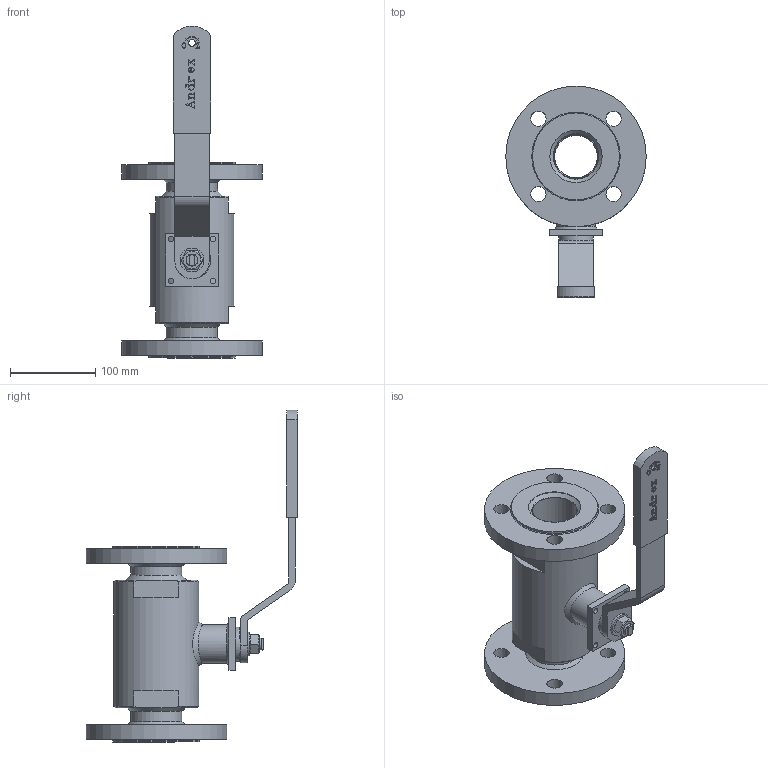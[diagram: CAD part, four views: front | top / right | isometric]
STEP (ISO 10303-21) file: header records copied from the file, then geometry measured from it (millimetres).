
FILE_DESCRIPTION(/* description */ (''),/* implementation_level */ '2;1');
FILE_NAME(/* name */ 'R:\Dokumenty_konstrukcyjne_INVENTOR\000_Zlozenie\50.41k.000.B1-10-40.00.stp',/* time_stamp */ '2022-09-19T11:25:08+02:00',/* author */ ('maat'),/* organization */ (''),/* preprocessor_version */ 'ST-DEVELOPER v15.6',/* originating_system */ 'Autodesk Inventor 2015',/* authorisation */ '');
FILE_SCHEMA (('AUTOMOTIVE_DESIGN { 1 0 10303 214 3 1 1 }'));
Length unit declared in the file: centimetre
Products named in the file (1): 50.41k.000.B1-10-40.00
Bounding box: 165 x 248.7 x 389.9 mm (x, y, z)
Volume: 1694615.4 mm3; surface area: 306236 mm2
Topology: 4 solids, 17 shells, 606 faces, 1559 edges, 1006 vertices
Faces by surface type: plane 459, cylinder 90, cone 37, torus 16, sphere 3, bspline 1
Full cylindrical faces by diameter (mm): 6.647 x4, 8 x1, 9 x2, 14 x2, 15 x1, 18 x8, 24 x1, 24.3 x1, 25 x3, 25.8 x1, 28 x1, 32 x1, 33 x2, 33.3 x1, 33.8 x1, 34 x1, 36.5 x1, 36.8 x2, 37 x2, 40 x1, 45 x2, 50 x3, 51 x2, 52.3 x2, 60.3 x6, 61 x2, 61.5 x4, 82.8 x1, 100 x1, 102 x2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
Entity records: 18951 total; most frequent: CARTESIAN_POINT 3925, ORIENTED_EDGE 2876, DIRECTION 2848, EDGE_CURVE 1427, LINE 1082, VECTOR 1082, VERTEX_POINT 972, AXIS2_PLACEMENT_3D 883
